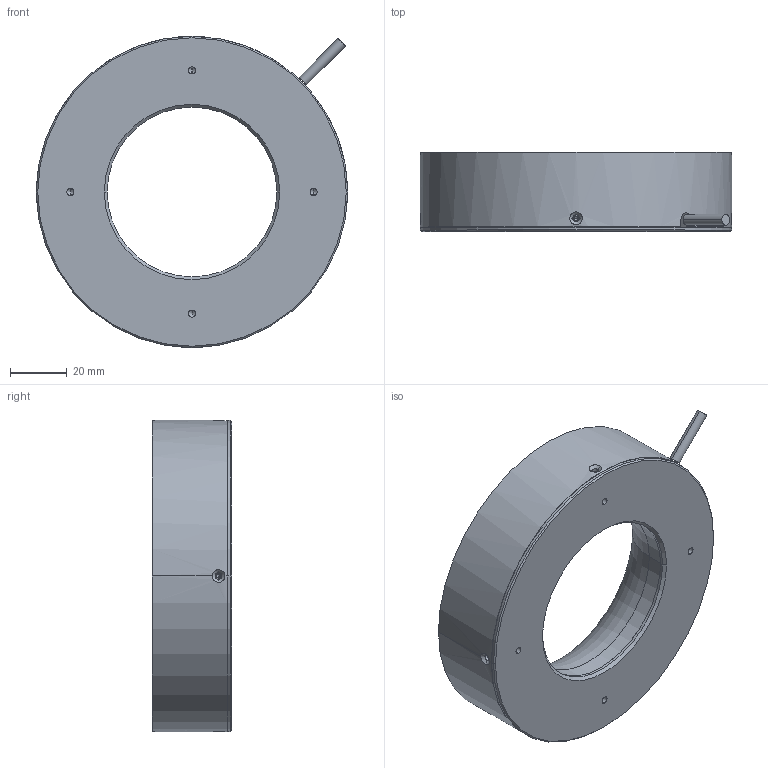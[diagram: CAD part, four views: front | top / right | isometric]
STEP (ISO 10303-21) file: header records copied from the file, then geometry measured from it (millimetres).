
FILE_DESCRIPTION (( 'STEP AP203' ), '1' );
FILE_NAME ('PPX-RIR110-W.STEP', '2022-09-12T02:42:21', ( 'Windows User' ), ( 'P R C' ), 'SwSTEP 2.0', 'SolidWorks 2016', '' );
FILE_SCHEMA (( 'CONFIG_CONTROL_DESIGN' ));
Length unit declared in the file: millimetre
Products named in the file (1): PPX-RIR110-W
Bounding box: 110 x 28 x 110 mm (x, y, z)
Volume: 96416.4 mm3; surface area: 68761.6 mm2
Topology: 4 solids, 4 shells, 747 faces, 1806 edges, 1176 vertices
Faces by surface type: plane 624, cylinder 73, cone 44, torus 4, bspline 2
Entity records: 21913 total; most frequent: CARTESIAN_POINT 4386, ORIENTED_EDGE 3564, DIRECTION 3378, EDGE_CURVE 1782, VECTOR 1578, LINE 1578, VERTEX_POINT 1176, AXIS2_PLACEMENT_3D 900
